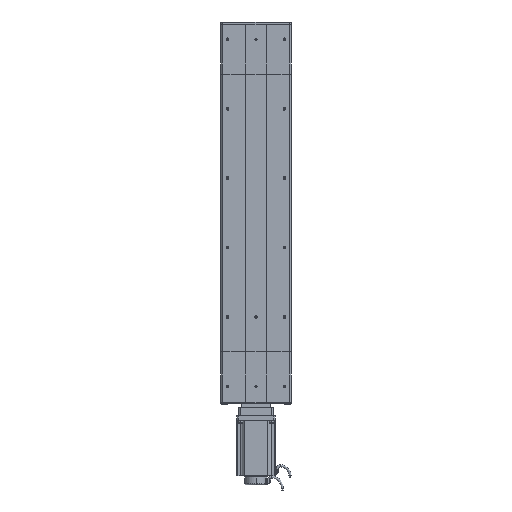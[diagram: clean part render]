
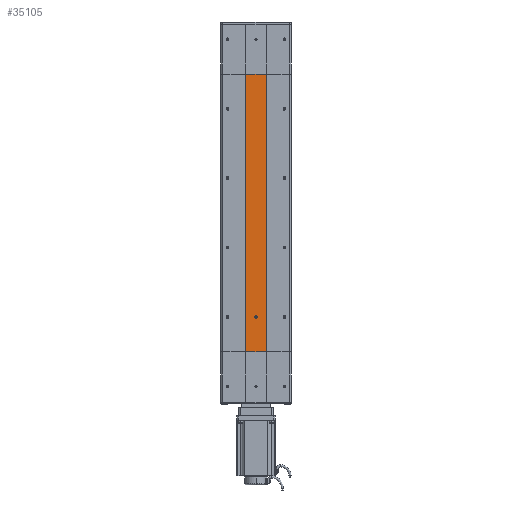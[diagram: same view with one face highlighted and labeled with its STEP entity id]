
A CAD part, front view. The second image highlights one B-rep face of the part: STEP entity #35105.
In plain terms, the highlighted planar face has unit normal (0, -1, 0).
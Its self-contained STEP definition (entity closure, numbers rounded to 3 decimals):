
#3895 = VERTEX_POINT ( 'NONE', #64490 ) ;
#3949 = EDGE_CURVE ( 'NONE', #4121, #4198, #64434, .T. ) ;
#3959 = EDGE_CURVE ( 'NONE', #4163, #3982, #64393, .T. ) ;
#3982 = VERTEX_POINT ( 'NONE', #64614 ) ;
#4020 = VERTEX_POINT ( 'NONE', #64646 ) ;
#4032 = EDGE_CURVE ( 'NONE', #4020, #3895, #64555, .T. ) ;
#4121 = VERTEX_POINT ( 'NONE', #64878 ) ;
#4163 = VERTEX_POINT ( 'NONE', #64857 ) ;
#4198 = VERTEX_POINT ( 'NONE', #64924 ) ;
#11634 = DIRECTION ( 'NONE',  ( 0., 0., 1. ) ) ;
#11636 = VECTOR ( 'NONE', #11634, 1000. ) ;
#11639 = CARTESIAN_POINT ( 'NONE',  ( -30., -32.5, 0. ) ) ;
#11641 = LINE ( 'NONE', #11639, #11636 ) ;
#12184 = DIRECTION ( 'NONE',  ( 0., 0., 1. ) ) ;
#12185 = VECTOR ( 'NONE', #12184, 1000. ) ;
#12193 = CARTESIAN_POINT ( 'NONE',  ( 30., -32.5, 0. ) ) ;
#12196 = LINE ( 'NONE', #12193, #12185 ) ;
#26712 = AXIS2_PLACEMENT_3D ( 'NONE', #26729, #27189, #26874 ) ;
#26721 = PLANE ( 'NONE',  #26712 ) ;
#26729 = CARTESIAN_POINT ( 'NONE',  ( -30., -32.5, 0. ) ) ;
#26874 = DIRECTION ( 'NONE',  ( 0., 0., 1. ) ) ;
#27189 = DIRECTION ( 'NONE',  ( 0., 1., 0. ) ) ;
#27209 = DIRECTION ( 'NONE',  ( 0., 0., -1. ) ) ;
#27214 = FACE_BOUND ( 'NONE', #35108, .T. ) ;
#27218 = FACE_OUTER_BOUND ( 'NONE', #35179, .T. ) ;
#27228 = DIRECTION ( 'NONE',  ( 0., -1., 0. ) ) ;
#27230 = CARTESIAN_POINT ( 'NONE',  ( 0., -32.5, 100. ) ) ;
#27232 = AXIS2_PLACEMENT_3D ( 'NONE', #27230, #27228, #27209 ) ;
#27233 = CIRCLE ( 'NONE', #27232, 3. ) ;
#35102 = ORIENTED_EDGE ( 'NONE', *, *, #35103, .F. ) ;
#35103 = EDGE_CURVE ( 'NONE', #4198, #4121, #27233, .T. ) ;
#35105 = ADVANCED_FACE ( 'NONE', ( #27214, #27218 ), #26721, .F. ) ;
#35108 = EDGE_LOOP ( 'NONE', ( #35102, #35267 ) ) ;
#35179 = EDGE_LOOP ( 'NONE', ( #35180, #35442, #35372, #35409 ) ) ;
#35180 = ORIENTED_EDGE ( 'NONE', *, *, #3959, .T. ) ;
#35266 = EDGE_CURVE ( 'NONE', #3895, #3982, #11641, .T. ) ;
#35267 = ORIENTED_EDGE ( 'NONE', *, *, #3949, .F. ) ;
#35372 = ORIENTED_EDGE ( 'NONE', *, *, #4032, .F. ) ;
#35409 = ORIENTED_EDGE ( 'NONE', *, *, #35443, .T. ) ;
#35442 = ORIENTED_EDGE ( 'NONE', *, *, #35266, .F. ) ;
#35443 = EDGE_CURVE ( 'NONE', #4020, #4163, #12196, .T. ) ;
#64345 = AXIS2_PLACEMENT_3D ( 'NONE', #64461, #64391, #64390 ) ;
#64390 = DIRECTION ( 'NONE',  ( 0., 0., -1. ) ) ;
#64391 = DIRECTION ( 'NONE',  ( 0., -1., 0. ) ) ;
#64392 = CARTESIAN_POINT ( 'NONE',  ( -30., -32.5, 800. ) ) ;
#64393 = LINE ( 'NONE', #64392, #64424 ) ;
#64424 = VECTOR ( 'NONE', #64503, 1000. ) ;
#64434 = CIRCLE ( 'NONE', #64345, 3. ) ;
#64461 = CARTESIAN_POINT ( 'NONE',  ( 0., -32.5, 100. ) ) ;
#64490 = CARTESIAN_POINT ( 'NONE',  ( -30., -32.5, 0. ) ) ;
#64503 = DIRECTION ( 'NONE',  ( -1., 0., 0. ) ) ;
#64552 = DIRECTION ( 'NONE',  ( -1., 0., 0. ) ) ;
#64553 = VECTOR ( 'NONE', #64552, 1000. ) ;
#64554 = CARTESIAN_POINT ( 'NONE',  ( -30., -32.5, 0. ) ) ;
#64555 = LINE ( 'NONE', #64554, #64553 ) ;
#64614 = CARTESIAN_POINT ( 'NONE',  ( -30., -32.5, 800. ) ) ;
#64646 = CARTESIAN_POINT ( 'NONE',  ( 30., -32.5, 0. ) ) ;
#64857 = CARTESIAN_POINT ( 'NONE',  ( 30., -32.5, 800. ) ) ;
#64878 = CARTESIAN_POINT ( 'NONE',  ( 0., -32.5, 103. ) ) ;
#64924 = CARTESIAN_POINT ( 'NONE',  ( 0., -32.5, 97. ) ) ;
